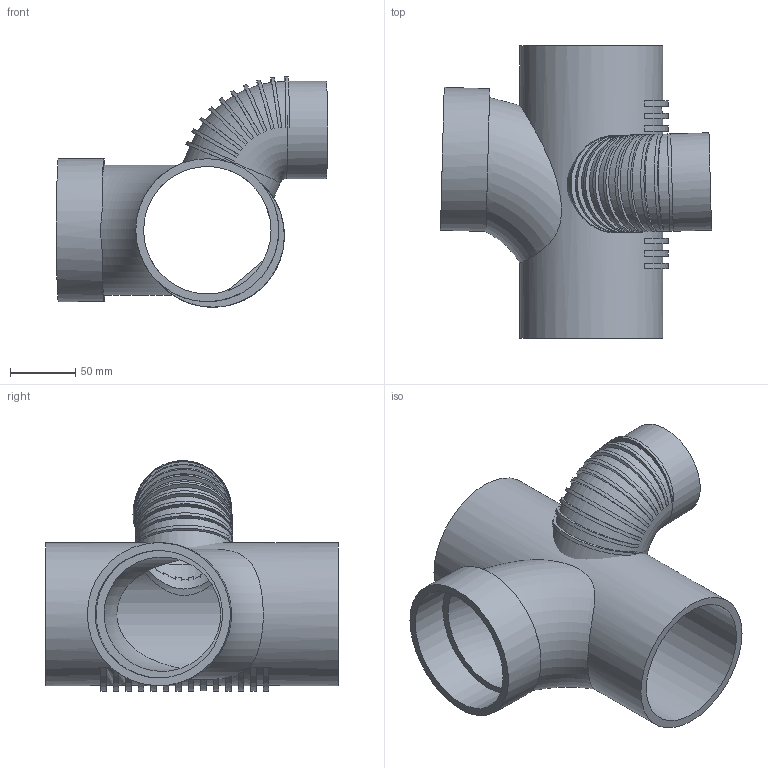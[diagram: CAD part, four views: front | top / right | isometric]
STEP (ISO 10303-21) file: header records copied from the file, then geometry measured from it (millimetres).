
FILE_DESCRIPTION(/* description */ (''),/* implementation_level */ '2;1');
FILE_NAME(/* name */ 'Z:\Geberit\Export\NewStep\310172.stp',/* time_stamp */ '2014-04-01T20:08:17+02:00',/* author */ ('ML'),/* organization */ (''),/* preprocessor_version */ 'ST-DEVELOPER v15.2',/* originating_system */ 'Autodesk Inventor 2014',/* authorisation */ '');
FILE_SCHEMA (('AUTOMOTIVE_DESIGN { 1 0 10303 214 3 1 1 }'));
Length unit declared in the file: millimetre
Products named in the file (1): 310172
Bounding box: 208.46 x 225 x 177.21 mm (x, y, z)
Volume: 640072.8 mm3; surface area: 254084.6 mm2
Topology: 10 solids, 10 shells, 115 faces, 269 edges, 171 vertices
Faces by surface type: cylinder 57, plane 54, torus 4
Full cylindrical faces by diameter (mm): 67.8 x3, 75 x2, 98 x2, 110 x2
Entity records: 3843 total; most frequent: CARTESIAN_POINT 1187, DIRECTION 548, ORIENTED_EDGE 492, AXIS2_PLACEMENT_3D 246, EDGE_CURVE 238, VERTEX_POINT 163, EDGE_LOOP 151, CIRCLE 120
